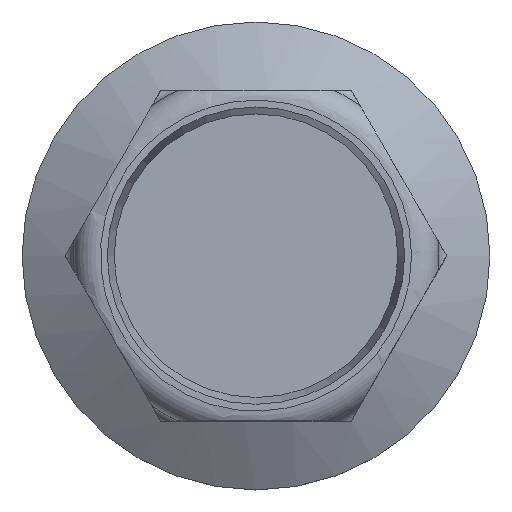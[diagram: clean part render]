
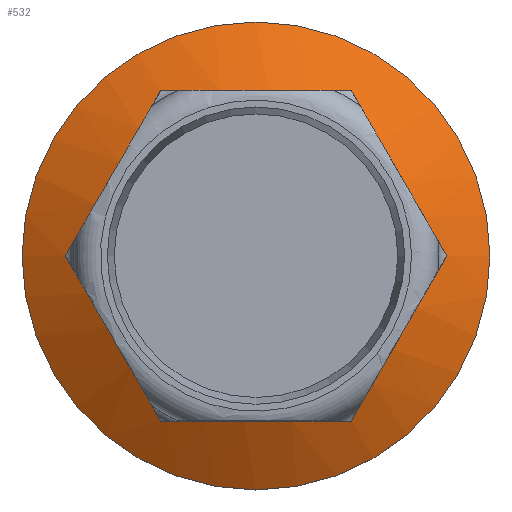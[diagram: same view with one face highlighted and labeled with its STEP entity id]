
A CAD part, top view. The second image highlights one B-rep face of the part: STEP entity #532.
In plain terms, the highlighted conical face has half-angle 60 degrees and reference radius 13.494 mm.
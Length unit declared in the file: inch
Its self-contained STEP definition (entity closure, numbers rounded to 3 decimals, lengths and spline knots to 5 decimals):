
#23=CONICAL_SURFACE('',#583,0.53125,60.);
#26=(
BOUNDED_CURVE()
B_SPLINE_CURVE(2,(#1059,#1060,#1061),.UNSPECIFIED.,.F.,.F.)
B_SPLINE_CURVE_WITH_KNOTS((3,3),(0.,1.11294),.UNSPECIFIED.)
CURVE()
GEOMETRIC_REPRESENTATION_ITEM()
RATIONAL_B_SPLINE_CURVE((1.,1.155,1.))
REPRESENTATION_ITEM('')
);
#27=(
BOUNDED_CURVE()
B_SPLINE_CURVE(2,(#1063,#1064,#1065),.UNSPECIFIED.,.F.,.F.)
B_SPLINE_CURVE_WITH_KNOTS((3,3),(0.,1.11294),.UNSPECIFIED.)
CURVE()
GEOMETRIC_REPRESENTATION_ITEM()
RATIONAL_B_SPLINE_CURVE((1.,1.155,1.))
REPRESENTATION_ITEM('')
);
#28=(
BOUNDED_CURVE()
B_SPLINE_CURVE(2,(#1067,#1068,#1069),.UNSPECIFIED.,.F.,.F.)
B_SPLINE_CURVE_WITH_KNOTS((3,3),(0.,1.11294),.UNSPECIFIED.)
CURVE()
GEOMETRIC_REPRESENTATION_ITEM()
RATIONAL_B_SPLINE_CURVE((1.,1.155,1.))
REPRESENTATION_ITEM('')
);
#29=(
BOUNDED_CURVE()
B_SPLINE_CURVE(2,(#1073,#1074,#1075),.UNSPECIFIED.,.F.,.F.)
B_SPLINE_CURVE_WITH_KNOTS((3,3),(0.,1.11294),.UNSPECIFIED.)
CURVE()
GEOMETRIC_REPRESENTATION_ITEM()
RATIONAL_B_SPLINE_CURVE((1.,1.155,1.))
REPRESENTATION_ITEM('')
);
#30=(
BOUNDED_CURVE()
B_SPLINE_CURVE(2,(#1076,#1077,#1078),.UNSPECIFIED.,.F.,.F.)
B_SPLINE_CURVE_WITH_KNOTS((3,3),(0.,1.11294),.UNSPECIFIED.)
CURVE()
GEOMETRIC_REPRESENTATION_ITEM()
RATIONAL_B_SPLINE_CURVE((1.,1.155,1.))
REPRESENTATION_ITEM('')
);
#31=(
BOUNDED_CURVE()
B_SPLINE_CURVE(2,(#1079,#1080,#1081),.UNSPECIFIED.,.F.,.F.)
B_SPLINE_CURVE_WITH_KNOTS((3,3),(0.,1.11294),.UNSPECIFIED.)
CURVE()
GEOMETRIC_REPRESENTATION_ITEM()
RATIONAL_B_SPLINE_CURVE((1.,1.155,1.))
REPRESENTATION_ITEM('')
);
#87=FACE_BOUND('',#148,.T.);
#110=FACE_OUTER_BOUND('',#147,.T.);
#147=EDGE_LOOP('',(#428));
#148=EDGE_LOOP('',(#429,#430,#431,#432,#433,#434));
#187=CIRCLE('',#584,0.53125);
#252=VERTEX_POINT('',#927);
#253=VERTEX_POINT('',#949);
#254=VERTEX_POINT('',#971);
#255=VERTEX_POINT('',#993);
#256=VERTEX_POINT('',#1015);
#257=VERTEX_POINT('',#1037);
#258=VERTEX_POINT('',#1071);
#321=EDGE_CURVE('',#257,#254,#26,.T.);
#322=EDGE_CURVE('',#254,#253,#27,.T.);
#323=EDGE_CURVE('',#253,#252,#28,.T.);
#324=EDGE_CURVE('',#258,#258,#187,.T.);
#325=EDGE_CURVE('',#256,#257,#29,.T.);
#326=EDGE_CURVE('',#252,#255,#30,.T.);
#327=EDGE_CURVE('',#255,#256,#31,.T.);
#428=ORIENTED_EDGE('',*,*,#324,.T.);
#429=ORIENTED_EDGE('',*,*,#325,.T.);
#430=ORIENTED_EDGE('',*,*,#321,.T.);
#431=ORIENTED_EDGE('',*,*,#322,.T.);
#432=ORIENTED_EDGE('',*,*,#323,.T.);
#433=ORIENTED_EDGE('',*,*,#326,.T.);
#434=ORIENTED_EDGE('',*,*,#327,.T.);
#532=ADVANCED_FACE('',(#110,#87),#23,.T.);
#583=AXIS2_PLACEMENT_3D('',#1070,#678,#679);
#584=AXIS2_PLACEMENT_3D('',#1072,#680,#681);
#678=DIRECTION('center_axis',(0.,0.,-1.));
#679=DIRECTION('ref_axis',(1.,0.,0.));
#680=DIRECTION('center_axis',(0.,0.,1.));
#681=DIRECTION('ref_axis',(1.,0.,0.));
#927=CARTESIAN_POINT('',(-0.21651,-0.375,-0.38078));
#949=CARTESIAN_POINT('',(0.21651,-0.375,-0.38078));
#971=CARTESIAN_POINT('',(0.43301,0.,-0.38078));
#993=CARTESIAN_POINT('',(-0.43301,0.,-0.38078));
#1015=CARTESIAN_POINT('',(-0.21651,0.375,-0.38078));
#1037=CARTESIAN_POINT('',(0.21651,0.375,-0.38078));
#1059=CARTESIAN_POINT('Ctrl Pts',(0.21651,0.375,-0.38078));
#1060=CARTESIAN_POINT('Ctrl Pts',(0.32476,0.1875,-0.31828));
#1061=CARTESIAN_POINT('Ctrl Pts',(0.43301,0.,
-0.38078));
#1063=CARTESIAN_POINT('Ctrl Pts',(0.43301,0.,
-0.38078));
#1064=CARTESIAN_POINT('Ctrl Pts',(0.32476,-0.1875,-0.31828));
#1065=CARTESIAN_POINT('Ctrl Pts',(0.21651,-0.375,-0.38078));
#1067=CARTESIAN_POINT('Ctrl Pts',(0.21651,-0.375,-0.38078));
#1068=CARTESIAN_POINT('Ctrl Pts',(0.,-0.375,-0.31828));
#1069=CARTESIAN_POINT('Ctrl Pts',(-0.21651,-0.375,-0.38078));
#1070=CARTESIAN_POINT('Origin',(0.,0.,-0.4375));
#1071=CARTESIAN_POINT('',(0.53125,0.,-0.4375));
#1072=CARTESIAN_POINT('Origin',(0.,0.,-0.4375));
#1073=CARTESIAN_POINT('Ctrl Pts',(-0.21651,0.375,-0.38078));
#1074=CARTESIAN_POINT('Ctrl Pts',(0.,0.375,-0.31828));
#1075=CARTESIAN_POINT('Ctrl Pts',(0.21651,0.375,-0.38078));
#1076=CARTESIAN_POINT('Ctrl Pts',(-0.21651,-0.375,
-0.38078));
#1077=CARTESIAN_POINT('Ctrl Pts',(-0.32476,-0.1875,-0.31828));
#1078=CARTESIAN_POINT('Ctrl Pts',(-0.43301,0.,
-0.38078));
#1079=CARTESIAN_POINT('Ctrl Pts',(-0.43301,0.,
-0.38078));
#1080=CARTESIAN_POINT('Ctrl Pts',(-0.32476,0.1875,-0.31828));
#1081=CARTESIAN_POINT('Ctrl Pts',(-0.21651,0.375,
-0.38078));
